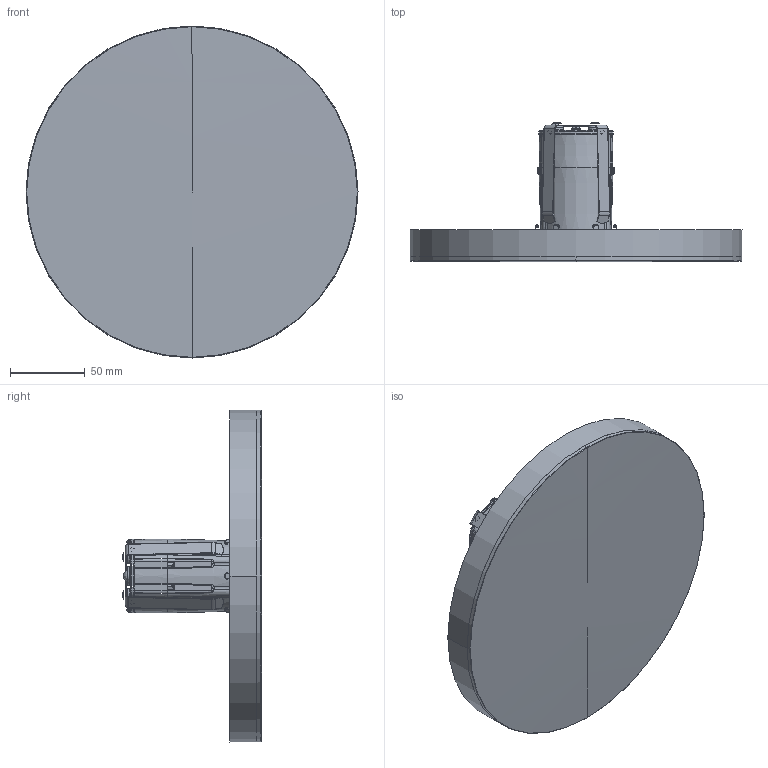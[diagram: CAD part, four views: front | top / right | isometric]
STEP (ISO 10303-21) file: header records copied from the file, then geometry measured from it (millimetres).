
FILE_DESCRIPTION((''),'2;1');
FILE_NAME('LINE-220_SW0001','2025-06-30T12:17:34',('Piccioli'),(''),'CREO PARAMETRIC BY PTC INC, 2025010','CREO PARAMETRIC BY PTC INC, 2025010','');
FILE_SCHEMA(('CONFIG_CONTROL_DESIGN'));
Length unit declared in the file: millimetre
Products named in the file (1): LINE-220_SW0001
Bounding box: 222 x 93.35 x 222 mm (x, y, z)
Surface area: 111713.2 mm2 (no closed solid volume)
Topology: 0 solids, 30 shells, 278 faces, 1022 edges, 751 vertices
Faces by surface type: bspline 98, cone 54, plane 44, cylinder 44, torus 20, sphere 18
Entity records: 20435 total; most frequent: CARTESIAN_POINT 12860, ORIENTED_EDGE 1446, DIRECTION 1422, EDGE_CURVE 1020, VERTEX_POINT 751, AXIS2_PLACEMENT_3D 586, CIRCLE 406, B_SPLINE_CURVE_WITH_KNOTS 364
